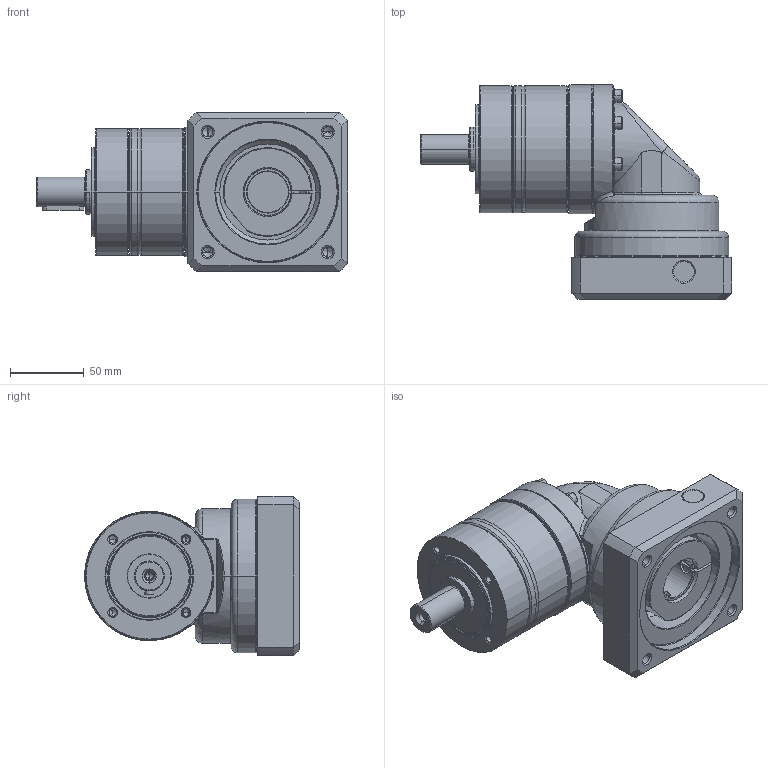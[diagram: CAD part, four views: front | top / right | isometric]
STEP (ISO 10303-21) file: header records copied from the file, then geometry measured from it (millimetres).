
FILE_DESCRIPTION((''),'2;1');
FILE_NAME('PG2R-080_1ST_28-P0411600101_ASM','2016-04-21T',('d01943'),(''),'PRO/ENGINEER BY PARAMETRIC TECHNOLOGY CORPORATION, 2008410','PRO/ENGINEER BY PARAMETRIC TECHNOLOGY CORPORATION, 2008410','');
FILE_SCHEMA(('CONFIG_CONTROL_DESIGN'));
Length unit declared in the file: millimetre
Products named in the file (12): P1325310001; P0250300001; P0350301103; P1349300001; P1017300001; P0713303001; P0503600008; P1350300301; P0411600101; P1702500001; 2111BA05025; PG2R-080_1ST_28-P0411600101_ASM
Assembly tree (16 placements, depth 2):
  PG2R-080_1ST_28-P0411600101_ASM
    P1325310001
    P0250300001
    P0350301103
    P1349300001
    P1017300001
    P0713303001
    P0503600008
    P1350300301
    P0411600101
    P1702500001
    2111BA05025  x6
Bounding box: 210.5 x 145.25 x 108 mm (x, y, z)
Volume: 877550.7 mm3; surface area: 216580.2 mm2
Topology: 16 solids, 17 shells, 783 faces, 1722 edges, 996 vertices
Faces by surface type: cylinder 244, cone 222, plane 191, torus 94, bspline 32
Entity records: 22827 total; most frequent: CARTESIAN_POINT 8928, DIRECTION 3087, ORIENTED_EDGE 2676, EDGE_CURVE 1338, AXIS2_PLACEMENT_3D 1299, VERTEX_POINT 796, EDGE_LOOP 702, CIRCLE 685
